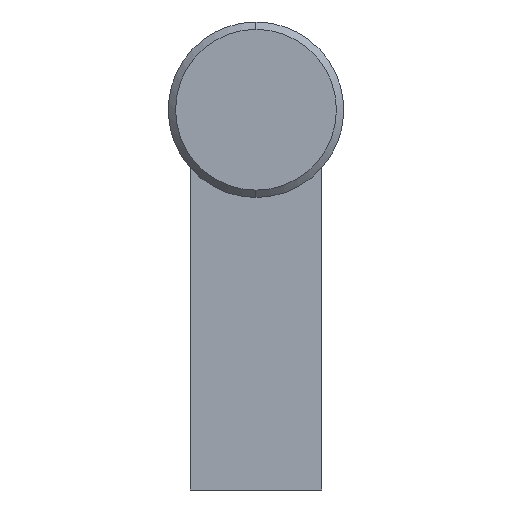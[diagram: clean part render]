
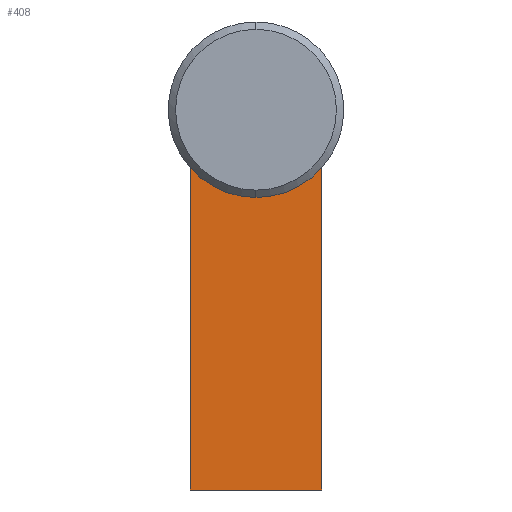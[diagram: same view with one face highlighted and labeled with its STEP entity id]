
A CAD part, left-side view. The second image highlights one B-rep face of the part: STEP entity #408.
In plain terms, the highlighted planar face has unit normal (-1, 0, 0).
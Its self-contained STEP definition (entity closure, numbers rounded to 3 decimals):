
#228 = EDGE_CURVE( '', #390, #370, #562, .T. );
#334 = EDGE_CURVE( '', #370, #378, #676, .T. );
#362 = EDGE_CURVE( '', #406, #378, #707, .T. );
#370 = VERTEX_POINT( '', #718 );
#378 = VERTEX_POINT( '', #727 );
#390 = VERTEX_POINT( '', #740 );
#402 = EDGE_CURVE( '', #444, #406, #752, .T. );
#406 = VERTEX_POINT( '', #756 );
#408 = ADVANCED_FACE( '', ( #758 ), #759, .F. );
#440 = EDGE_CURVE( '', #390, #444, #796, .T. );
#444 = VERTEX_POINT( '', #800 );
#562 = CIRCLE( '', #934, 6. );
#676 = CIRCLE( '', #1092, 6. );
#707 = LINE( '', #1136, #1137 );
#718 = CARTESIAN_POINT( '', ( -10.5, 0., 20. ) );
#727 = CARTESIAN_POINT( '', ( -10.5, 4.5, 22.031 ) );
#740 = CARTESIAN_POINT( '', ( -10.5, -4.5, 22.031 ) );
#752 = LINE( '', #1195, #1196 );
#756 = CARTESIAN_POINT( '', ( -10.5, 4.5, 0. ) );
#758 = FACE_OUTER_BOUND( '', #1203, .T. );
#759 = PLANE( '', #1204 );
#796 = LINE( '', #1249, #1250 );
#800 = CARTESIAN_POINT( '', ( -10.5, -4.5, 0. ) );
#934 = AXIS2_PLACEMENT_3D( '', #1399, #1400, #1401 );
#1092 = AXIS2_PLACEMENT_3D( '', #1521, #1522, #1523 );
#1136 = CARTESIAN_POINT( '', ( -10.5, 4.5, 0. ) );
#1137 = VECTOR( '', #1568, 1. );
#1195 = CARTESIAN_POINT( '', ( -10.5, -4.5, 0. ) );
#1196 = VECTOR( '', #1618, 1. );
#1203 = EDGE_LOOP( '', ( #1623, #1624, #1625, #1626, #1627 ) );
#1204 = AXIS2_PLACEMENT_3D( '', #1628, #1629, #1630 );
#1249 = CARTESIAN_POINT( '', ( -10.5, -4.5, 22.031 ) );
#1250 = VECTOR( '', #1667, 1. );
#1399 = CARTESIAN_POINT( '', ( -10.5, 0., 26. ) );
#1400 = DIRECTION( '', ( 1., 0., 0. ) );
#1401 = DIRECTION( '', ( 0., 0., 1. ) );
#1521 = CARTESIAN_POINT( '', ( -10.5, 0., 26. ) );
#1522 = DIRECTION( '', ( 1., 0., 0. ) );
#1523 = DIRECTION( '', ( 0., 0., 1. ) );
#1568 = DIRECTION( '', ( 0., 0., 1. ) );
#1618 = DIRECTION( '', ( 0., 1., 0. ) );
#1623 = ORIENTED_EDGE( '', *, *, #440, .F. );
#1624 = ORIENTED_EDGE( '', *, *, #228, .T. );
#1625 = ORIENTED_EDGE( '', *, *, #334, .T. );
#1626 = ORIENTED_EDGE( '', *, *, #362, .F. );
#1627 = ORIENTED_EDGE( '', *, *, #402, .F. );
#1628 = CARTESIAN_POINT( '', ( -10.5, 0., 0. ) );
#1629 = DIRECTION( '', ( 1., 0., 0. ) );
#1630 = DIRECTION( '', ( 0., 0., -1. ) );
#1667 = DIRECTION( '', ( 0., 0., -1. ) );
